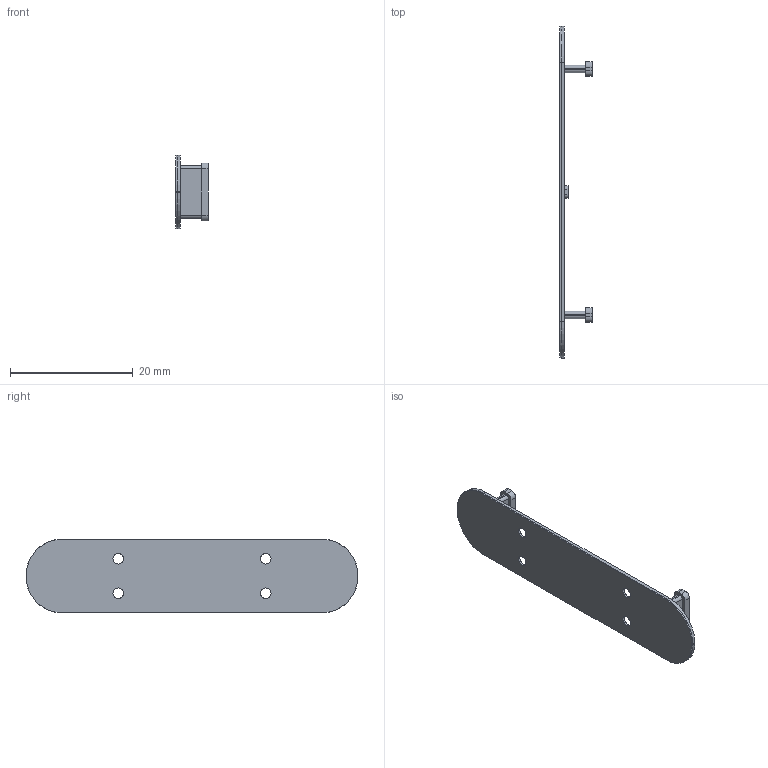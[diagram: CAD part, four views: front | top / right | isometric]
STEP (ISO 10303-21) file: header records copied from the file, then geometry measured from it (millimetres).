
FILE_DESCRIPTION(/* description */ (''),/* implementation_level */ '2;1');
FILE_NAME(/* name */ 'C27_R2_06_PTT_Rigid_Carrier.step',/* time_stamp */ '2026-09-10T13:08:42-07:00',/* author */ (''),/* organization */ (''),/* preprocessor_version */ 'ST-DEVELOPER v20.1',/* originating_system */ 'Autodesk Translation Framework v15.8.0.0',/* authorisation */ '');
FILE_SCHEMA (('AUTOMOTIVE_DESIGN { 1 0 10303 214 3 1 1 }'));
Length unit declared in the file: millimetre
Products named in the file (1): 2026-09-10-13-08-42-052
Bounding box: 5.25 x 54 x 12 mm (x, y, z)
Volume: 539.1 mm3; surface area: 1550.8 mm2
Topology: 1 solids, 1 shells, 80 faces, 196 edges, 128 vertices
Faces by surface type: plane 40, cylinder 36, torus 4
Full cylindrical faces by diameter (mm): 1.7 x4, 2.8 x4
Entity records: 2421 total; most frequent: DIRECTION 434, CARTESIAN_POINT 405, ORIENTED_EDGE 392, EDGE_CURVE 196, AXIS2_PLACEMENT_3D 157, VERTEX_POINT 128, LINE 120, VECTOR 120
